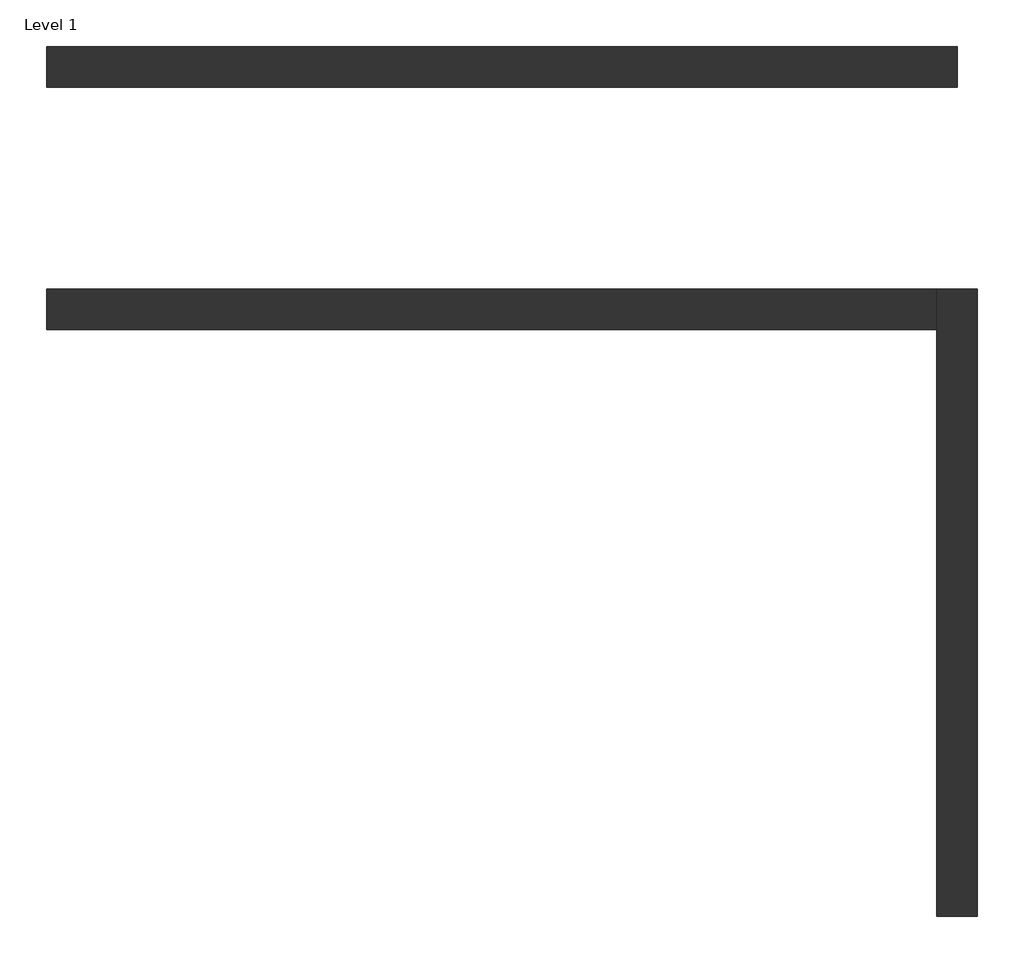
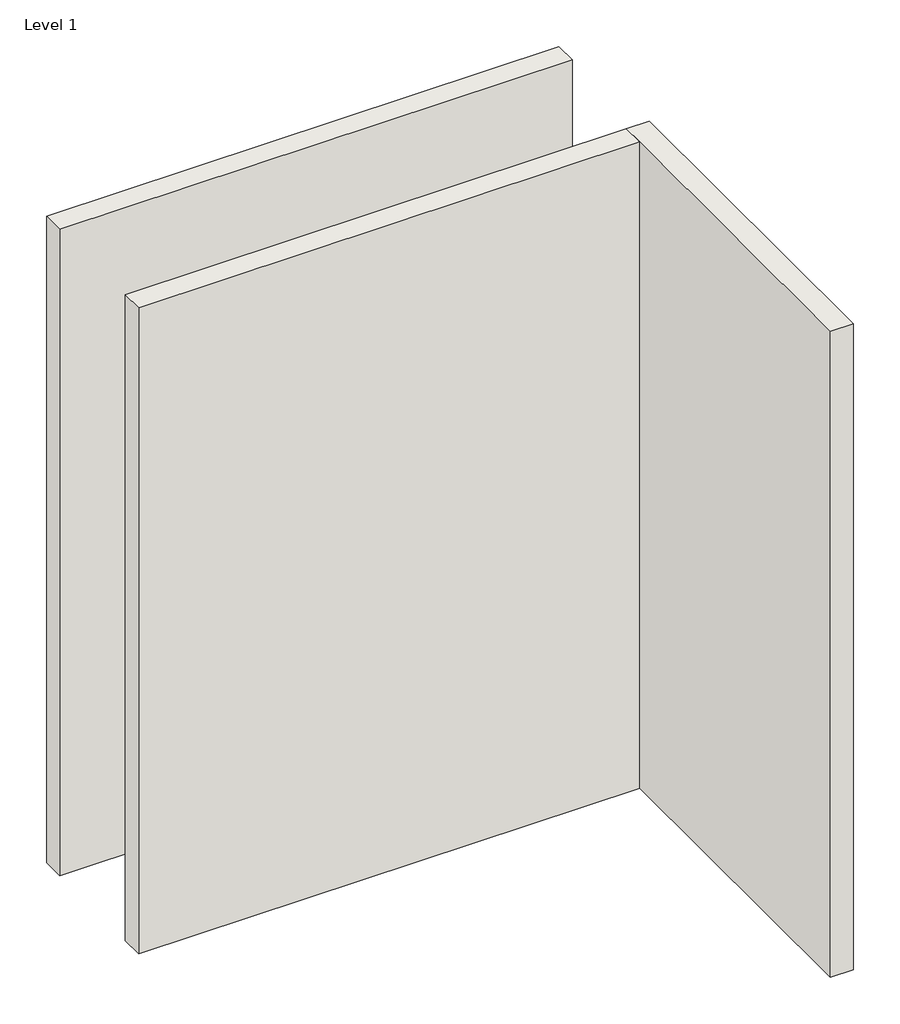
# One storey: 3 walls.
"""IFC4 building model written with IfcOpenShell, lengths in millimetres."""

from ifc_helpers import new_model, si_unit, origin, origin_with_axes, place, context, project, spatial, polyline, outline, extrude, faceted_brep, element, save

model = new_model("IFC4")

# Units and contexts
model_context = context("Model", 3, world=origin())
ifc_project = project(units=[si_unit("LENGTHUNIT", "METRE", prefix="MILLI")], contexts=[model_context])

# Site, building, storey
site = spatial("IfcSite", under=ifc_project)
building = spatial("IfcBuilding", under=site)
storey = spatial("IfcBuildingStorey", under=building, Name="Level 1", Elevation=0.0)

# Walls
placement = place(None, origin())
element("IfcWall", 1, ObjectType="Generic - 8\"", at=placement, inside=storey, context=model_context, shape_type="Brep", body=[
    faceted_brep([(5979.1122456, -2584.357364, 0.0), (5979.1122456, 565.242636, 0.0), (5979.1122456, 565.242636, 6096.0), (5979.1122456, -2584.357364, 6096.0), (5775.9122456, -2584.357364, 0.0), (5775.9122456, -2584.357364, 6096.0), (5775.9122456, 362.042636, 6096.0), (5775.9122456, 565.242636, 6096.0), (5775.9122456, 565.242636, 0.0), (5775.9122456, 362.042636, 0.0)], [[[0, 1, 2, 3]], [[4, 5, 6, 7, 8, 9]], [[1, 0, 4, 9, 8]], [[3, 2, 7, 6, 5]], [[0, 3, 5, 4]], [[2, 1, 8, 7]]]),
])
element("IfcWall", 2, ObjectType="Generic - 8\"", at=placement, inside=storey, context=model_context, shape_type="SweptSolid", body=[
    extrude(outline(polyline([(1305.5122456, 565.242636), (5775.9122456, 565.242636), (5775.9122456, 362.042636), (1305.5122456, 362.042636), (1305.5122456, 565.242636)])), origin_with_axes(), (0.0, 0.0, 1.0), 6096.0),
])
element("IfcWall", 3, ObjectType="Generic - 8\"", at=placement, inside=storey, context=model_context, shape_type="SweptSolid", body=[
    extrude(outline(polyline([(1305.5122456, 1784.442636), (5877.5122456, 1784.442636), (5877.5122456, 1581.242636), (1305.5122456, 1581.242636), (1305.5122456, 1784.442636)])), origin_with_axes(), (0.0, 0.0, 1.0), 6096.0),
])

save(model, "model.ifc")
